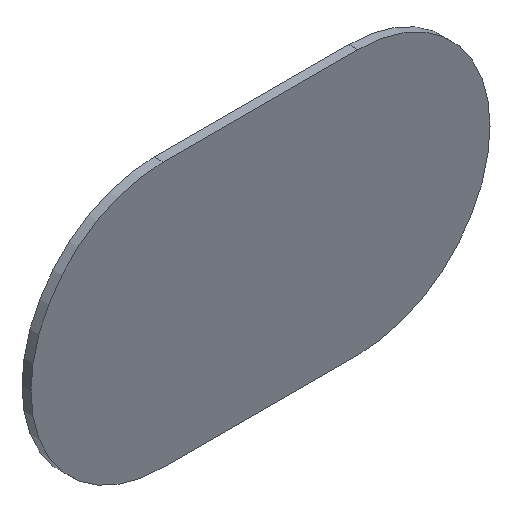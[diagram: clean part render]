
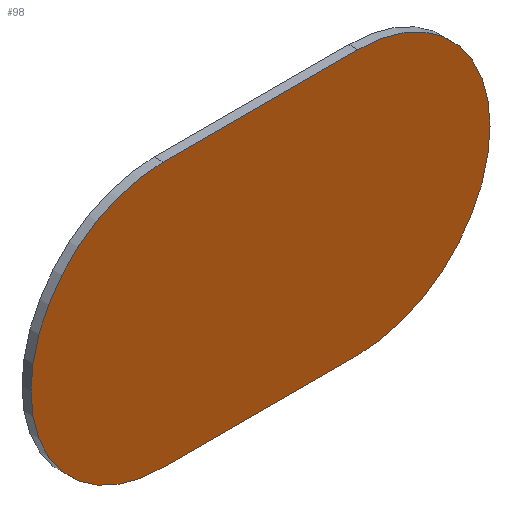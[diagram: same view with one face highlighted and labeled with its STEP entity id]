
A CAD part, isometric view. The second image highlights one B-rep face of the part: STEP entity #98.
In plain terms, the highlighted planar face has unit normal (0, -1, 0).
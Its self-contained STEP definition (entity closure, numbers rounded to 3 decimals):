
#6 = VERTEX_POINT ( 'NONE', #157 ) ;
#9 = VERTEX_POINT ( 'NONE', #153 ) ;
#14 = CARTESIAN_POINT ( 'NONE',  ( -32.5, -3., -44.2 ) ) ;
#15 = DIRECTION ( 'NONE',  ( 0., 1., 0. ) ) ;
#42 = ORIENTED_EDGE ( 'NONE', *, *, #184, .F. ) ;
#47 = PLANE ( 'NONE',  #73 ) ;
#49 = DIRECTION ( 'NONE',  ( 0., 0., 1. ) ) ;
#51 = DIRECTION ( 'NONE',  ( 0., 0., 1. ) ) ;
#61 = LINE ( 'NONE', #191, #156 ) ;
#68 = ORIENTED_EDGE ( 'NONE', *, *, #86, .F. ) ;
#73 = AXIS2_PLACEMENT_3D ( 'NONE', #102, #132, #165 ) ;
#81 = CIRCLE ( 'NONE', #190, 44.2 ) ;
#84 = VERTEX_POINT ( 'NONE', #103 ) ;
#86 = EDGE_CURVE ( 'NONE', #84, #9, #148, .T. ) ;
#88 = CARTESIAN_POINT ( 'NONE',  ( 32.5, -3., 0. ) ) ;
#90 = DIRECTION ( 'NONE',  ( 0., 1., 0. ) ) ;
#92 = AXIS2_PLACEMENT_3D ( 'NONE', #129, #15, #51 ) ;
#96 = VERTEX_POINT ( 'NONE', #188 ) ;
#98 = ADVANCED_FACE ( 'NONE', ( #120 ), #47, .F. ) ;
#102 = CARTESIAN_POINT ( 'NONE',  ( -32.5, -3., 0. ) ) ;
#103 = CARTESIAN_POINT ( 'NONE',  ( -32.5, -3., -44.2 ) ) ;
#110 = ORIENTED_EDGE ( 'NONE', *, *, #179, .F. ) ;
#114 = EDGE_LOOP ( 'NONE', ( #68, #110, #143, #42 ) ) ;
#120 = FACE_OUTER_BOUND ( 'NONE', #114, .T. ) ;
#129 = CARTESIAN_POINT ( 'NONE',  ( -32.5, -3., 0. ) ) ;
#132 = DIRECTION ( 'NONE',  ( 0., 1., 0. ) ) ;
#134 = VECTOR ( 'NONE', #162, 1000. ) ;
#143 = ORIENTED_EDGE ( 'NONE', *, *, #163, .F. ) ;
#147 = DIRECTION ( 'NONE',  ( 1., 0., 0. ) ) ;
#148 = CIRCLE ( 'NONE', #92, 44.2 ) ;
#153 = CARTESIAN_POINT ( 'NONE',  ( -32.5, -3., 44.2 ) ) ;
#156 = VECTOR ( 'NONE', #147, 1000. ) ;
#157 = CARTESIAN_POINT ( 'NONE',  ( 32.5, -3., 44.2 ) ) ;
#161 = LINE ( 'NONE', #14, #134 ) ;
#162 = DIRECTION ( 'NONE',  ( -1., 0., 0. ) ) ;
#163 = EDGE_CURVE ( 'NONE', #6, #96, #81, .T. ) ;
#165 = DIRECTION ( 'NONE',  ( 0., 0., 1. ) ) ;
#179 = EDGE_CURVE ( 'NONE', #96, #84, #161, .T. ) ;
#184 = EDGE_CURVE ( 'NONE', #9, #6, #61, .T. ) ;
#188 = CARTESIAN_POINT ( 'NONE',  ( 32.5, -3., -44.2 ) ) ;
#190 = AXIS2_PLACEMENT_3D ( 'NONE', #88, #90, #49 ) ;
#191 = CARTESIAN_POINT ( 'NONE',  ( -32.5, -3., 44.2 ) ) ;
